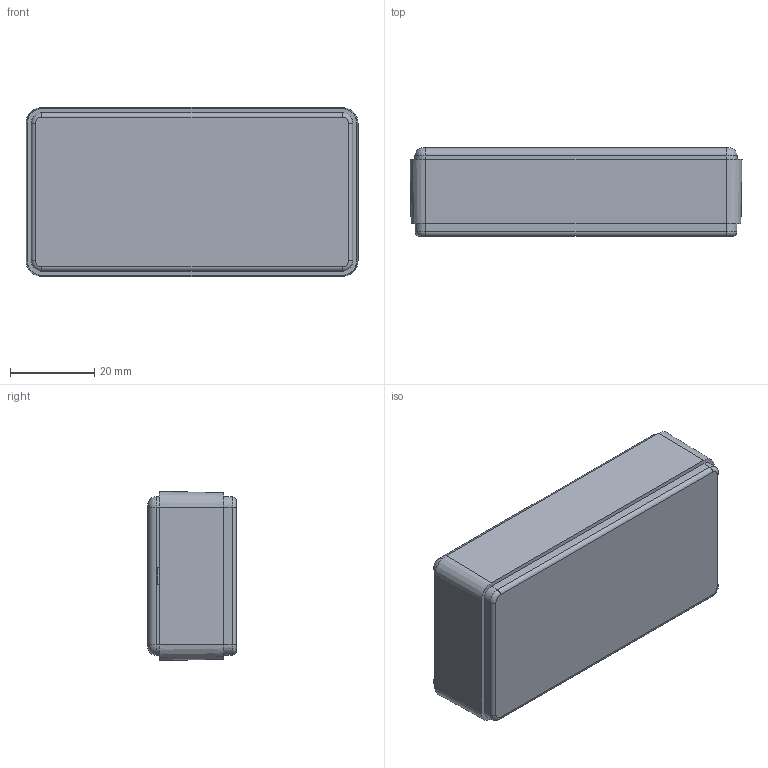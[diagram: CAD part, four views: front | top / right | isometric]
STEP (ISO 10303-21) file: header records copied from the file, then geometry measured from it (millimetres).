
FILE_DESCRIPTION (( 'STEP AP214' ), '1' );
FILE_NAME ('Conjunt PP12.STEP', '2016-10-06T18:50:04', ( 'aaa' ), ( '' ), 'SwSTEP 2.0', 'SolidWorks 2013', '' );
FILE_SCHEMA (( 'AUTOMOTIVE_DESIGN' ));
Length unit declared in the file: millimetre
Products named in the file (4): Cargol 2,2x6,95 PP12; Tapa PP12; Cos PP12; Conjunt PP12
Assembly tree (4 placements, depth 2):
  Conjunt PP12
    Cos PP12
    Tapa PP12
    Cargol 2,2x6,95 PP12  x2
Bounding box: 79.03 x 21.1 x 40.23 mm (x, y, z)
Volume: 20835.3 mm3; surface area: 22489.8 mm2
Topology: 4 solids, 4 shells, 229 faces, 524 edges, 314 vertices
Faces by surface type: cone 92, plane 79, cylinder 50, torus 8
Entity records: 4996 total; most frequent: DIRECTION 912, CARTESIAN_POINT 819, ORIENTED_EDGE 792, EDGE_CURVE 396, AXIS2_PLACEMENT_3D 338, VERTEX_POINT 245, VECTOR 236, LINE 236
